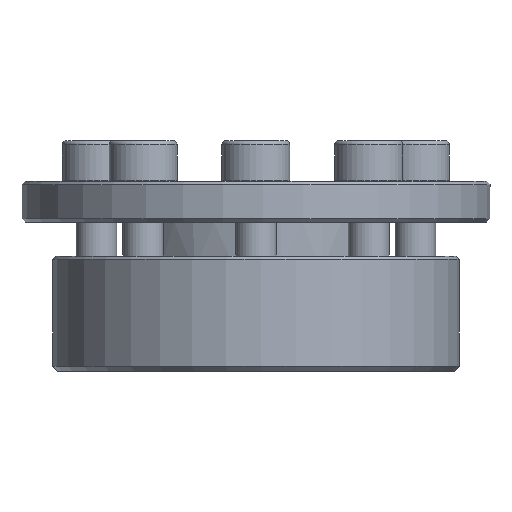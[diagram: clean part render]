
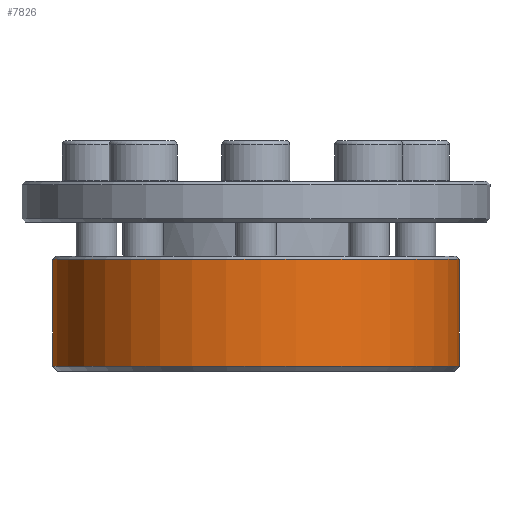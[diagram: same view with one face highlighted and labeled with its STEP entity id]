
A CAD part, front view. The second image highlights one B-rep face of the part: STEP entity #7826.
In plain terms, the highlighted cylindrical face has radius 30 mm (diameter 60 mm), a partial arc.
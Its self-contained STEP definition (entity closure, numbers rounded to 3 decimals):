
#4734=CARTESIAN_POINT('',(0.,0.,
-5.5));
#4735=DIRECTION('',(0.,0.,-1.));
#4736=DIRECTION('',(0.939,0.344,0.));
#4737=AXIS2_PLACEMENT_3D('',#4734,#4735,#4736);
#4770=DIRECTION('',(0.,0.,-1.));
#4771=VECTOR('',#4770,15.75);
#4772=CARTESIAN_POINT('',(27.214,12.625,-5.5));
#4773=LINE('',#4772,#4771);
#4777=DIRECTION('',(0.,0.,-1.));
#4778=VECTOR('',#4777,15.75);
#4779=CARTESIAN_POINT('',(28.171,10.316,-5.5));
#4780=LINE('',#4779,#4778);
#4802=CARTESIAN_POINT('',(0.,0.,
-21.25));
#4803=DIRECTION('',(0.,0.,1.));
#4804=DIRECTION('',(0.907,0.421,0.));
#4805=AXIS2_PLACEMENT_3D('',#4802,#4803,#4804);
#5353=CARTESIAN_POINT('',(28.171,10.316,-5.5));
#5354=CARTESIAN_POINT('',(28.171,10.316,-21.25));
#5355=VERTEX_POINT('',#5353);
#5356=VERTEX_POINT('',#5354);
#5357=CARTESIAN_POINT('',(27.214,12.625,-5.5));
#5358=CARTESIAN_POINT('',(27.214,12.625,-21.25));
#5359=VERTEX_POINT('',#5357);
#5360=VERTEX_POINT('',#5358);
#7814=CARTESIAN_POINT('',(0.,0.,-4.15));
#7815=DIRECTION('',(0.,0.,-1.));
#7816=DIRECTION('',(0.,-1.,0.));
#7817=AXIS2_PLACEMENT_3D('',#7814,#7815,#7816);
#7818=CYLINDRICAL_SURFACE('',#7817,30.);
#7820=ORIENTED_EDGE('',*,*,#7819,.F.);
#7821=ORIENTED_EDGE('',*,*,#7780,.F.);
#7822=ORIENTED_EDGE('',*,*,#7799,.F.);
#7823=ORIENTED_EDGE('',*,*,#7142,.T.);
#7824=EDGE_LOOP('',(#7820,#7821,#7822,#7823));
#7825=FACE_OUTER_BOUND('',#7824,.F.);
#7826=ADVANCED_FACE('',(#7825),#7818,.T.);
#4738=CIRCLE('',#4737,30.);
#4806=CIRCLE('',#4805,30.);
#7142=EDGE_CURVE('',#5355,#5356,#4780,.T.);
#7780=EDGE_CURVE('',#5359,#5360,#4773,.T.);
#7799=EDGE_CURVE('',#5355,#5359,#4738,.T.);
#7819=EDGE_CURVE('',#5360,#5356,#4806,.T.);
